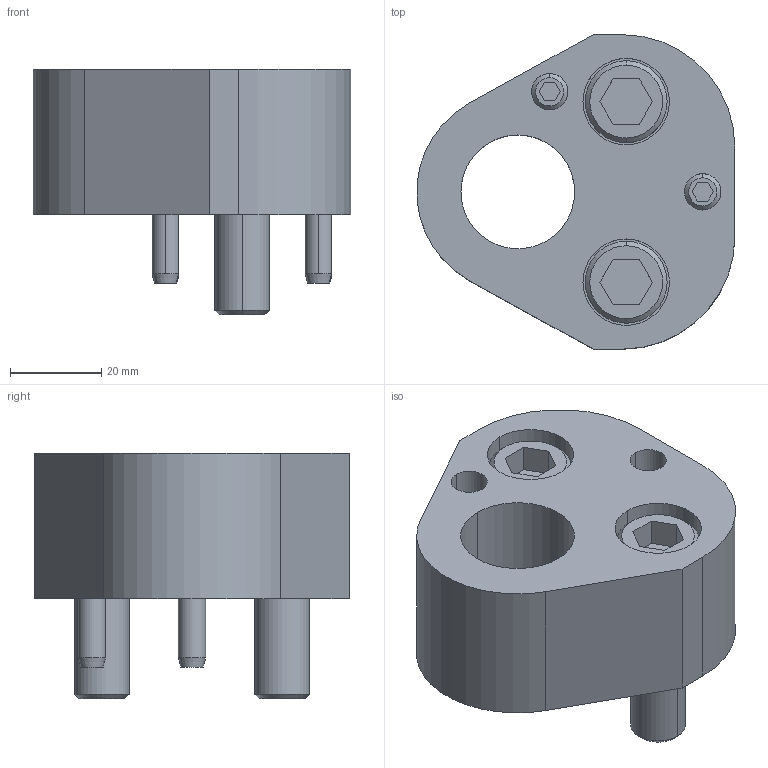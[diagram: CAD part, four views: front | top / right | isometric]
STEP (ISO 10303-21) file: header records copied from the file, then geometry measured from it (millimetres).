
FILE_DESCRIPTION(/* description */ (''),/* implementation_level */ '2;1');
FILE_NAME(/* name */ '3d_crnar25_03629_r00.stp',/* time_stamp */ '2011-01-10T14:16:19+09:00',/* author */ ('MISUMI'),/* organization */ (''),/* preprocessor_version */ 'ST-DEVELOPER v11',/* originating_system */ 'UGS - NX 5.0',/* authorisation */ '');
FILE_SCHEMA (('CONFIG_CONTROL_DESIGN'));
Length unit declared in the file: millimetre
Products named in the file (1): 3d_crnar25_03629_r00
Bounding box: 69.83 x 69.1 x 54 mm (x, y, z)
Volume: 102140.1 mm3; surface area: 27676.6 mm2
Topology: 7 solids, 7 shells, 135 faces, 294 edges, 188 vertices
Faces by surface type: plane 60, cylinder 49, cone 26
Entity records: 3836 total; most frequent: DIRECTION 684, CARTESIAN_POINT 672, ORIENTED_EDGE 588, EDGE_CURVE 294, AXIS2_PLACEMENT_3D 260, VERTEX_POINT 188, LINE 164, VECTOR 164
